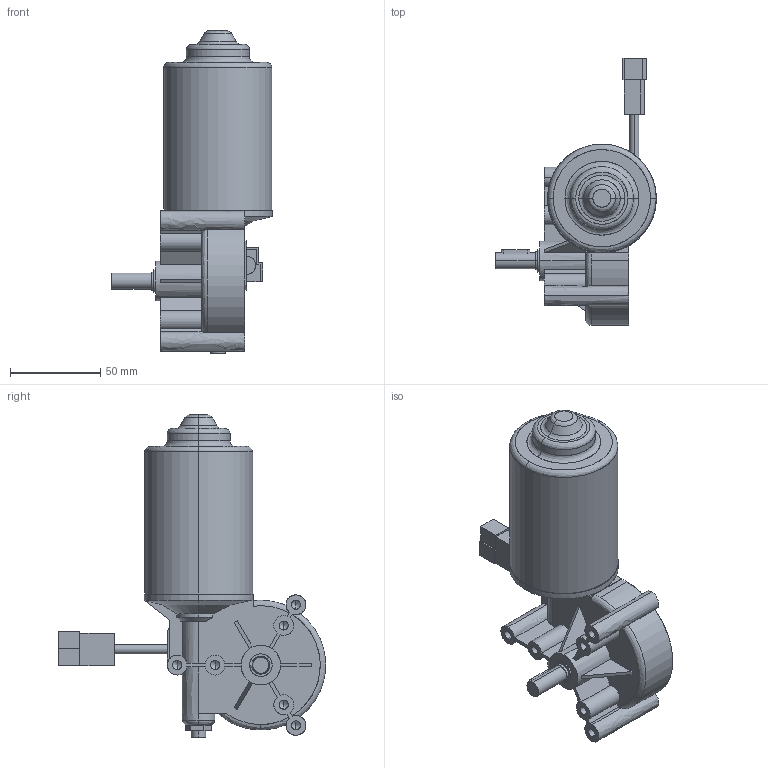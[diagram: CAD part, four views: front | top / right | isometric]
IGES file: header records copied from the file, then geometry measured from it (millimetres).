
Start section: SolidWorks IGES file using analytic representation for surfaces
Global section: file name: \\Uranus\R&D\plans\CATALOGUES\Topstock_Piece_IGES\111.IGS; native system: SolidWorks 2008; preprocessor: SolidWorks 2008; author: JUL; date: 090326.092000; units: millimetre
Bounding box: 89.25 x 148.5 x 179 mm (x, y, z)
Surface area: 55566.5 mm2 (no closed solid volume)
Topology: 0 solids, 0 shells, 224 faces, 2802 edges, 2790 vertices
Faces by surface type: bspline 136, revolution 88
